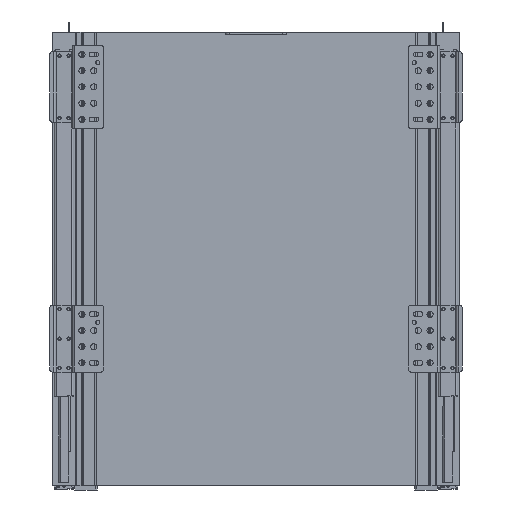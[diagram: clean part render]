
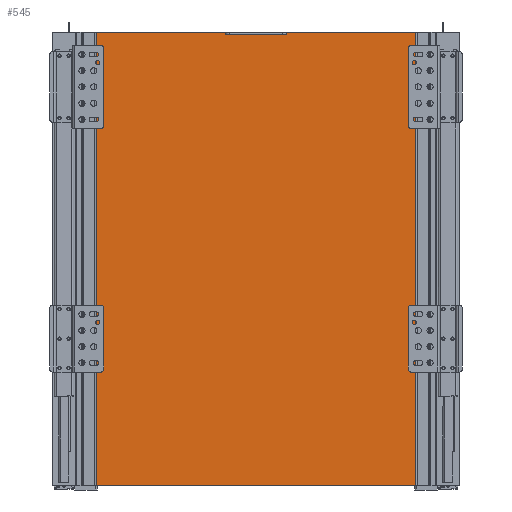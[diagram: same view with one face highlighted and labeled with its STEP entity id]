
A CAD part, front view. The second image highlights one B-rep face of the part: STEP entity #545.
In plain terms, the highlighted planar face has unit normal (0, -1, 0).
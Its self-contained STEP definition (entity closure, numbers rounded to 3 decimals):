
#114=DIRECTION('',(0.,0.,-1.));
#115=VECTOR('',#114,447.);
#116=CARTESIAN_POINT('',(-177.,0.,0.));
#117=LINE('',#116,#115);
#199=DIRECTION('',(0.,0.,-1.));
#200=VECTOR('',#199,2.8);
#201=CARTESIAN_POINT('',(30.,0.,0.));
#202=LINE('',#201,#200);
#203=DIRECTION('',(1.,0.,0.));
#204=VECTOR('',#203,60.);
#205=CARTESIAN_POINT('',(-30.,0.,-2.8));
#206=LINE('',#205,#204);
#207=DIRECTION('',(1.,0.,0.));
#208=VECTOR('',#207,147.);
#209=CARTESIAN_POINT('',(30.,0.,0.));
#210=LINE('',#209,#208);
#211=DIRECTION('',(0.,0.,-1.));
#212=VECTOR('',#211,447.);
#213=CARTESIAN_POINT('',(177.,0.,0.));
#214=LINE('',#213,#212);
#215=DIRECTION('',(1.,0.,0.));
#216=VECTOR('',#215,147.);
#217=CARTESIAN_POINT('',(-177.,0.,0.));
#218=LINE('',#217,#216);
#219=DIRECTION('',(0.,0.,-1.));
#220=VECTOR('',#219,2.8);
#221=CARTESIAN_POINT('',(-30.,0.,0.));
#222=LINE('',#221,#220);
#227=DIRECTION('',(1.,0.,0.));
#228=VECTOR('',#227,354.);
#229=CARTESIAN_POINT('',(-177.,0.,-447.));
#230=LINE('',#229,#228);
#253=CARTESIAN_POINT('',(30.,0.,-2.8));
#254=VERTEX_POINT('',#253);
#255=CARTESIAN_POINT('',(-30.,0.,-2.8));
#256=VERTEX_POINT('',#255);
#259=CARTESIAN_POINT('',(-30.,0.,0.));
#260=VERTEX_POINT('',#259);
#261=CARTESIAN_POINT('',(-177.,0.,0.));
#262=VERTEX_POINT('',#261);
#267=CARTESIAN_POINT('',(177.,0.,0.));
#268=VERTEX_POINT('',#267);
#269=CARTESIAN_POINT('',(30.,0.,0.));
#270=VERTEX_POINT('',#269);
#271=CARTESIAN_POINT('',(177.,0.,-447.));
#272=VERTEX_POINT('',#271);
#273=CARTESIAN_POINT('',(-177.,0.,-447.));
#274=VERTEX_POINT('',#273);
#528=CARTESIAN_POINT('',(-177.,0.,0.));
#529=DIRECTION('',(0.,-1.,0.));
#530=DIRECTION('',(1.,0.,0.));
#531=AXIS2_PLACEMENT_3D('',#528,#529,#530);
#532=PLANE('',#531);
#533=ORIENTED_EDGE('',*,*,#482,.T.);
#534=ORIENTED_EDGE('',*,*,#522,.F.);
#535=ORIENTED_EDGE('',*,*,#444,.T.);
#536=ORIENTED_EDGE('',*,*,#341,.T.);
#538=ORIENTED_EDGE('',*,*,#537,.F.);
#539=ORIENTED_EDGE('',*,*,#382,.F.);
#540=ORIENTED_EDGE('',*,*,#439,.T.);
#542=ORIENTED_EDGE('',*,*,#541,.T.);
#543=EDGE_LOOP('',(#533,#534,#535,#536,#538,#539,#540,#542));
#544=FACE_OUTER_BOUND('',#543,.F.);
#341=EDGE_CURVE('',#268,#272,#214,.T.);
#382=EDGE_CURVE('',#262,#274,#117,.T.);
#439=EDGE_CURVE('',#262,#260,#218,.T.);
#444=EDGE_CURVE('',#270,#268,#210,.T.);
#482=EDGE_CURVE('',#256,#254,#206,.T.);
#522=EDGE_CURVE('',#270,#254,#202,.T.);
#537=EDGE_CURVE('',#274,#272,#230,.T.);
#541=EDGE_CURVE('',#260,#256,#222,.T.);
#545=ADVANCED_FACE('',(#544),#532,.T.);
